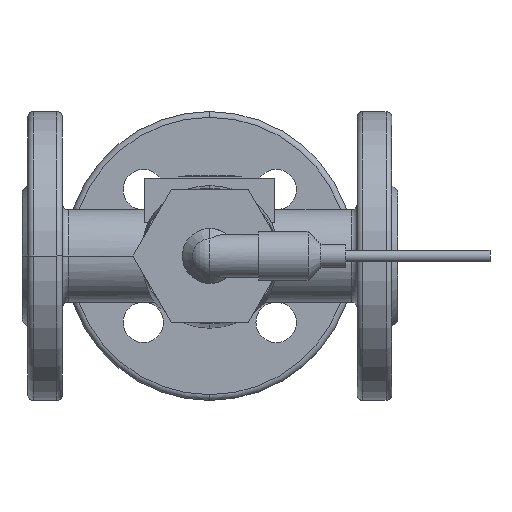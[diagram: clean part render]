
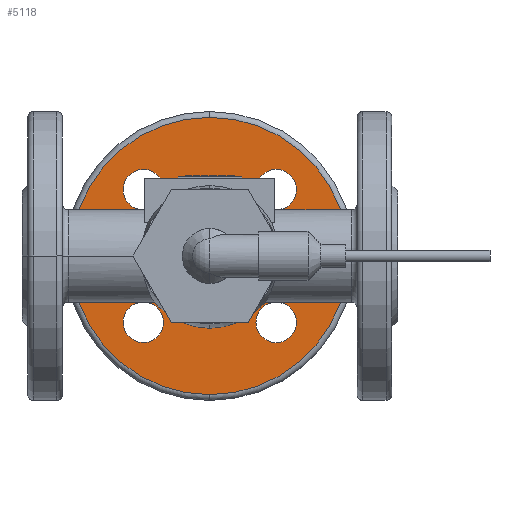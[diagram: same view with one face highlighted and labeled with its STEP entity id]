
A CAD part, front view. The second image highlights one B-rep face of the part: STEP entity #5118.
In plain terms, the highlighted planar face has unit normal (0, -1, 0) as drawn and (0, 1, 0) by its records, which use the part's own axes.
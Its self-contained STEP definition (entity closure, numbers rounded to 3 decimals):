
#60 = CARTESIAN_POINT ( 'NONE',  ( -22.981, -56., 29.981 ) ) ;
#61 = CARTESIAN_POINT ( 'NONE',  ( -22.981, -56., 15.981 ) ) ;
#62 = DIRECTION ( 'NONE',  ( 0., 0., -1. ) ) ;
#63 = DIRECTION ( 'NONE',  ( 0., 1., 0. ) ) ;
#64 = CARTESIAN_POINT ( 'NONE',  ( -22.981, -56., 22.981 ) ) ;
#65 = AXIS2_PLACEMENT_3D ( 'NONE', #64, #63, #62 ) ;
#66 = CIRCLE ( 'NONE', #65, 7. ) ;
#643 = AXIS2_PLACEMENT_3D ( 'NONE', #704, #703, #702 ) ;
#644 = CIRCLE ( 'NONE', #643, 7. ) ;
#676 = DIRECTION ( 'NONE',  ( 0., 0., -1. ) ) ;
#677 = DIRECTION ( 'NONE',  ( 0., 1., 0. ) ) ;
#678 = CARTESIAN_POINT ( 'NONE',  ( 22.981, -56., -22.981 ) ) ;
#679 = AXIS2_PLACEMENT_3D ( 'NONE', #678, #677, #676 ) ;
#680 = CIRCLE ( 'NONE', #679, 7. ) ;
#702 = DIRECTION ( 'NONE',  ( 0., 0., -1. ) ) ;
#703 = DIRECTION ( 'NONE',  ( 0., 1., 0. ) ) ;
#704 = CARTESIAN_POINT ( 'NONE',  ( -22.981, -56., -22.981 ) ) ;
#786 = CARTESIAN_POINT ( 'NONE',  ( 22.981, -56., -15.981 ) ) ;
#787 = CARTESIAN_POINT ( 'NONE',  ( 22.981, -56., -29.981 ) ) ;
#816 = CARTESIAN_POINT ( 'NONE',  ( -22.981, -56., -29.981 ) ) ;
#866 = CARTESIAN_POINT ( 'NONE',  ( -22.981, -56., -15.981 ) ) ;
#2143 = EDGE_CURVE ( 'NONE', #2162, #2144, #7232, .T. ) ;
#2144 = VERTEX_POINT ( 'NONE', #7226 ) ;
#2149 = VERTEX_POINT ( 'NONE', #7215 ) ;
#2157 = EDGE_CURVE ( 'NONE', #2149, #2158, #7300, .T. ) ;
#2158 = VERTEX_POINT ( 'NONE', #7294 ) ;
#2162 = VERTEX_POINT ( 'NONE', #7274 ) ;
#2385 = EDGE_CURVE ( 'NONE', #2386, #2387, #7659, .T. ) ;
#2386 = VERTEX_POINT ( 'NONE', #7650 ) ;
#2387 = VERTEX_POINT ( 'NONE', #7648 ) ;
#2429 = EDGE_CURVE ( 'NONE', #2430, #2431, #66, .T. ) ;
#2430 = VERTEX_POINT ( 'NONE', #61 ) ;
#2431 = VERTEX_POINT ( 'NONE', #60 ) ;
#2848 = EDGE_CURVE ( 'NONE', #2948, #3007, #644, .T. ) ;
#2865 = EDGE_CURVE ( 'NONE', #2924, #2925, #680, .T. ) ;
#2924 = VERTEX_POINT ( 'NONE', #787 ) ;
#2925 = VERTEX_POINT ( 'NONE', #786 ) ;
#2948 = VERTEX_POINT ( 'NONE', #816 ) ;
#3007 = VERTEX_POINT ( 'NONE', #866 ) ;
#4650 = EDGE_LOOP ( 'NONE', ( #4652, #4653 ) ) ;
#4652 = ORIENTED_EDGE ( 'NONE', *, *, #2848, .F. ) ;
#4653 = ORIENTED_EDGE ( 'NONE', *, *, #4654, .F. ) ;
#4654 = EDGE_CURVE ( 'NONE', #3007, #2948, #6953, .T. ) ;
#4655 = EDGE_LOOP ( 'NONE', ( #4657, #4899 ) ) ;
#4657 = ORIENTED_EDGE ( 'NONE', *, *, #2865, .F. ) ;
#4659 = ORIENTED_EDGE ( 'NONE', *, *, #2157, .T. ) ;
#4662 = EDGE_LOOP ( 'NONE', ( #4665, #4667 ) ) ;
#4665 = ORIENTED_EDGE ( 'NONE', *, *, #2385, .F. ) ;
#4667 = ORIENTED_EDGE ( 'NONE', *, *, #4668, .F. ) ;
#4668 = EDGE_CURVE ( 'NONE', #2387, #2386, #6925, .T. ) ;
#4673 = ORIENTED_EDGE ( 'NONE', *, *, #4675, .T. ) ;
#4675 = EDGE_CURVE ( 'NONE', #2158, #2149, #6904, .T. ) ;
#4899 = ORIENTED_EDGE ( 'NONE', *, *, #4901, .F. ) ;
#4901 = EDGE_CURVE ( 'NONE', #2925, #2924, #7282, .T. ) ;
#4916 = EDGE_CURVE ( 'NONE', #2144, #2162, #7258, .T. ) ;
#4918 = ORIENTED_EDGE ( 'NONE', *, *, #2143, .T. ) ;
#4921 = EDGE_LOOP ( 'NONE', ( #4673, #4659 ) ) ;
#4928 = EDGE_LOOP ( 'NONE', ( #4929, #4931 ) ) ;
#4929 = ORIENTED_EDGE ( 'NONE', *, *, #2429, .F. ) ;
#4931 = ORIENTED_EDGE ( 'NONE', *, *, #4933, .F. ) ;
#4933 = EDGE_CURVE ( 'NONE', #2431, #2430, #7365, .T. ) ;
#5118 = ADVANCED_FACE ( 'NONE', ( #7594, #7592, #7591, #7590, #7589, #7588 ), #7582, .F. ) ;
#5120 = EDGE_LOOP ( 'NONE', ( #5121, #4918 ) ) ;
#5121 = ORIENTED_EDGE ( 'NONE', *, *, #4916, .T. ) ;
#6865 = CARTESIAN_POINT ( 'NONE',  ( -22.981, -56., -22.981 ) ) ;
#6897 = DIRECTION ( 'NONE',  ( 0., 0., -1. ) ) ;
#6899 = DIRECTION ( 'NONE',  ( 0., 1., 0. ) ) ;
#6900 = CARTESIAN_POINT ( 'NONE',  ( 0., -56., 0. ) ) ;
#6902 = AXIS2_PLACEMENT_3D ( 'NONE', #6900, #6899, #6897 ) ;
#6904 = CIRCLE ( 'NONE', #6902, 48. ) ;
#6920 = DIRECTION ( 'NONE',  ( 0., 0., -1. ) ) ;
#6921 = DIRECTION ( 'NONE',  ( 0., 1., 0. ) ) ;
#6923 = AXIS2_PLACEMENT_3D ( 'NONE', #6955, #6921, #6920 ) ;
#6925 = CIRCLE ( 'NONE', #6923, 7. ) ;
#6950 = DIRECTION ( 'NONE',  ( 0., 0., -1. ) ) ;
#6951 = DIRECTION ( 'NONE',  ( 0., 1., 0. ) ) ;
#6952 = AXIS2_PLACEMENT_3D ( 'NONE', #6865, #6951, #6950 ) ;
#6953 = CIRCLE ( 'NONE', #6952, 7. ) ;
#6955 = CARTESIAN_POINT ( 'NONE',  ( 22.981, -56., 22.981 ) ) ;
#7215 = CARTESIAN_POINT ( 'NONE',  ( 0., -56., 48. ) ) ;
#7226 = CARTESIAN_POINT ( 'NONE',  ( 0., -56., -18. ) ) ;
#7228 = DIRECTION ( 'NONE',  ( 0., 0., -1. ) ) ;
#7229 = DIRECTION ( 'NONE',  ( 0., -1., 0. ) ) ;
#7230 = CARTESIAN_POINT ( 'NONE',  ( 0., -56., 0. ) ) ;
#7231 = AXIS2_PLACEMENT_3D ( 'NONE', #7230, #7229, #7228 ) ;
#7232 = CIRCLE ( 'NONE', #7231, 18. ) ;
#7258 = CIRCLE ( 'NONE', #7375, 18. ) ;
#7266 = DIRECTION ( 'NONE',  ( 0., 0., -1. ) ) ;
#7268 = DIRECTION ( 'NONE',  ( 0., 1., 0. ) ) ;
#7271 = CARTESIAN_POINT ( 'NONE',  ( 22.981, -56., -22.981 ) ) ;
#7272 = AXIS2_PLACEMENT_3D ( 'NONE', #7271, #7268, #7266 ) ;
#7274 = CARTESIAN_POINT ( 'NONE',  ( 0., -56., 18. ) ) ;
#7282 = CIRCLE ( 'NONE', #7272, 7. ) ;
#7294 = CARTESIAN_POINT ( 'NONE',  ( 0., -56., -48. ) ) ;
#7296 = DIRECTION ( 'NONE',  ( 0., 0., -1. ) ) ;
#7297 = DIRECTION ( 'NONE',  ( 0., 1., 0. ) ) ;
#7298 = CARTESIAN_POINT ( 'NONE',  ( 0., -56., 0. ) ) ;
#7299 = AXIS2_PLACEMENT_3D ( 'NONE', #7298, #7297, #7296 ) ;
#7300 = CIRCLE ( 'NONE', #7299, 48. ) ;
#7360 = DIRECTION ( 'NONE',  ( 0., 0., -1. ) ) ;
#7362 = DIRECTION ( 'NONE',  ( 0., 1., 0. ) ) ;
#7363 = CARTESIAN_POINT ( 'NONE',  ( -22.981, -56., 22.981 ) ) ;
#7364 = AXIS2_PLACEMENT_3D ( 'NONE', #7363, #7362, #7360 ) ;
#7365 = CIRCLE ( 'NONE', #7364, 7. ) ;
#7369 = DIRECTION ( 'NONE',  ( 0., 0., -1. ) ) ;
#7371 = DIRECTION ( 'NONE',  ( 0., -1., 0. ) ) ;
#7373 = CARTESIAN_POINT ( 'NONE',  ( 0., -56., 0. ) ) ;
#7375 = AXIS2_PLACEMENT_3D ( 'NONE', #7373, #7371, #7369 ) ;
#7575 = DIRECTION ( 'NONE',  ( 0., 0., -1. ) ) ;
#7578 = DIRECTION ( 'NONE',  ( 0., -1., 0. ) ) ;
#7580 = CARTESIAN_POINT ( 'NONE',  ( 50., -56., 0. ) ) ;
#7581 = AXIS2_PLACEMENT_3D ( 'NONE', #7580, #7578, #7575 ) ;
#7582 = PLANE ( 'NONE',  #7581 ) ;
#7588 = FACE_BOUND ( 'NONE', #4655, .T. ) ;
#7589 = FACE_BOUND ( 'NONE', #4650, .T. ) ;
#7590 = FACE_BOUND ( 'NONE', #4928, .T. ) ;
#7591 = FACE_BOUND ( 'NONE', #4662, .T. ) ;
#7592 = FACE_OUTER_BOUND ( 'NONE', #4921, .T. ) ;
#7594 = FACE_BOUND ( 'NONE', #5120, .T. ) ;
#7648 = CARTESIAN_POINT ( 'NONE',  ( 22.981, -56., 29.981 ) ) ;
#7650 = CARTESIAN_POINT ( 'NONE',  ( 22.981, -56., 15.981 ) ) ;
#7652 = DIRECTION ( 'NONE',  ( 0., 0., -1. ) ) ;
#7655 = DIRECTION ( 'NONE',  ( 0., 1., 0. ) ) ;
#7657 = CARTESIAN_POINT ( 'NONE',  ( 22.981, -56., 22.981 ) ) ;
#7658 = AXIS2_PLACEMENT_3D ( 'NONE', #7657, #7655, #7652 ) ;
#7659 = CIRCLE ( 'NONE', #7658, 7. ) ;
